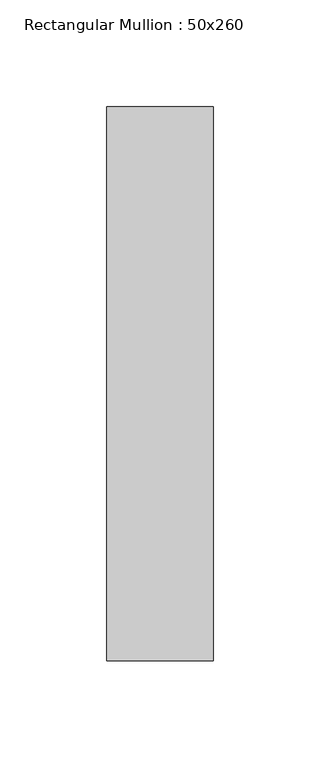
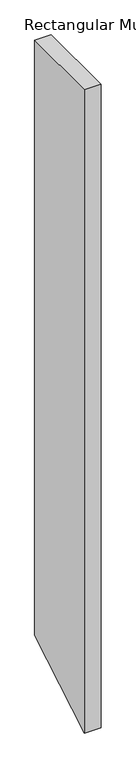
"""IFC4 building model written with IfcOpenShell, lengths in millimetres: member geometry, Rectangular Mullion : 50x260."""

from ifc_helpers import new_model, si_unit, frame, origin, place, context, project, spatial, polyline, outline, extrude, source, transform, mapped, element, save


def rectangular_mullion_50x260_3ef876ae(model_context):
    return source(origin(), model_context, "Body", "SweptSolid", [
        extrude(outline(polyline([(-130.0, 0.0), (130.0, 0.0), (130.0, -1896.1825725), (-130.0, -2049.6051247), (-130.0, 0.0)])), frame((-50.0, 0.0, 0.0), z_axis=(1.0, 0.0, 0.0), x_axis=(0.0, 1.0, 0.0)), (0.0, 0.0, 1.0), 50.0),
    ])


if __name__ == "__main__":
    model = new_model("IFC4")
    model_context = context("Model", 3, world=origin())
    ifc_project = project(units=[si_unit("LENGTHUNIT", "METRE", prefix="MILLI")], contexts=[model_context])
    site = spatial("IfcSite", under=ifc_project)
    building = spatial("IfcBuilding", under=site)
    placement = place(None, origin())
    rectangular_mullion_50x260_shape = rectangular_mullion_50x260_3ef876ae(model_context)
    element("IfcMember", 1, ObjectType="Rectangular Mullion : 50x260", at=placement, inside=building, context=model_context, shape_type="MappedRepresentation", body=[
        mapped(rectangular_mullion_50x260_shape, transform((0.0, 0.0, 0.0), x_axis=(1.0, 0.0, 0.0), y_axis=(0.0, 1.0, 0.0), z_axis=(0.0, 0.0, 1.0))),
    ])
    save(model, "model.ifc")
